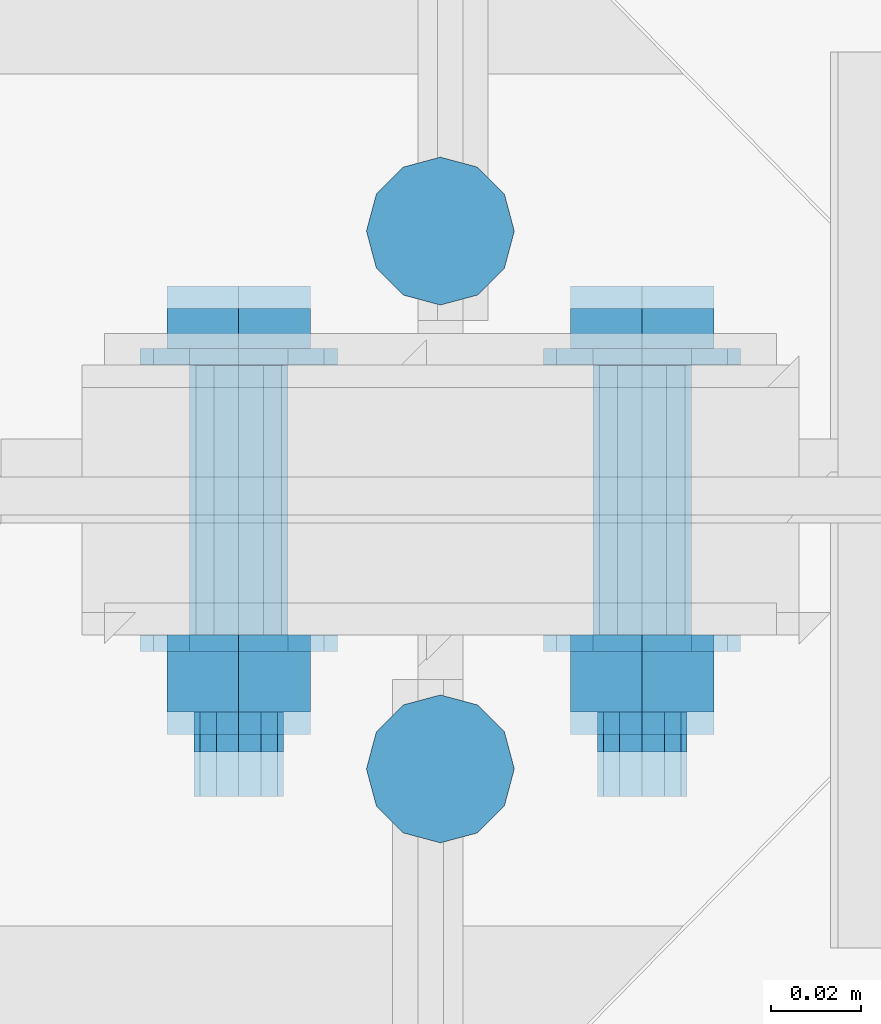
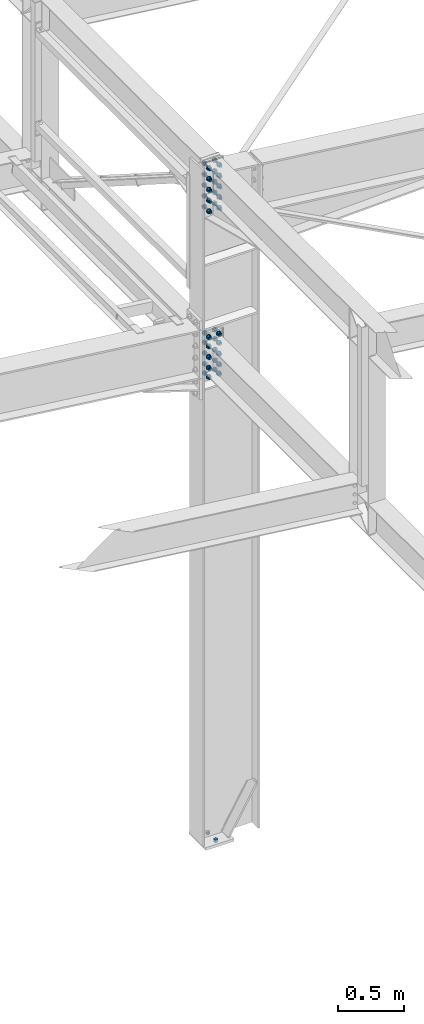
# One storey, part 135 of 3134: 3 mechanical fasteners, 2 elements without a shape of their own.
"""IFC2X3 building model written with IfcOpenShell, lengths in millimetres."""

from ifc_helpers import new_model, si_unit, frame, origin_with_axes, place, context, subcontext, project, spatial, faceted_brep, source, transform, mapped, material, type_object, element, aggregate, save


model = new_model("IFC2X3")

# Units and contexts
model_context = context("Model", 3, precision=1e-05, world=origin_with_axes())
body_context = subcontext(model_context, "Body", "Model", "MODEL_VIEW")
ifc_project = project(units=[si_unit("LENGTHUNIT", "METRE", prefix="MILLI"), si_unit("AREAUNIT", "SQUARE_METRE"), si_unit("VOLUMEUNIT", "CUBIC_METRE"), si_unit("MASSUNIT", "GRAM", prefix="KILO"), si_unit("TIMEUNIT", "SECOND"), si_unit("PLANEANGLEUNIT", "RADIAN"), si_unit("SOLIDANGLEUNIT", "STERADIAN"), si_unit("THERMODYNAMICTEMPERATUREUNIT", "DEGREE_CELSIUS"), si_unit("LUMINOUSINTENSITYUNIT", "LUMEN")], contexts=[model_context])

# Site, building, storey
site_placement = place(None, origin_with_axes())
site = spatial("IfcSite", under=ifc_project, at=site_placement, CompositionType="ELEMENT")
building_placement = place(site_placement, origin_with_axes())
building = spatial("IfcBuilding", under=site, at=building_placement, Name="Undefined", CompositionType="ELEMENT")
storey_placement = place(building_placement, origin_with_axes())
storey = spatial("IfcBuildingStorey", under=building, at=storey_placement, Name="Undefined", CompositionType="ELEMENT", Elevation=0.0)

# Assembly, mechanical fasteners
assembly_1_placement = place(storey_placement, origin_with_axes())
assembly_1 = element("IfcElementAssembly", 1, at=assembly_1_placement, inside=storey, Name="300", AssemblyPlace="NOTDEFINED", PredefinedType="RIGID_FRAME")
ifc_material_1 = material(Name="HR10.9")
mechanical_fastener_type = type_object("IfcMechanicalFastenerType", Name="Bolt assembly")
shared_shape_1 = source(origin_with_axes(), body_context, "Body", "Brep", [
    faceted_brep([(18.475208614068, -18.3999996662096, 0.0), (9.23760430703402, -18.3999996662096, 16.0), (-9.23760430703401, -18.3999996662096, 16.0), (-18.475208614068, -18.3999996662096, 2.2625605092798e-15), (-9.23760430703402, -18.3999996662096, -16.0), (9.237604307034, -18.3999996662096, -16.0), (9.237604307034, -4.50000004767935, -16.0), (-9.23760430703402, -4.50000004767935, -16.0), (-18.475208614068, -4.50000004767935, 2.2625605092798e-15), (-9.23760430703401, -4.50000004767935, 16.0), (9.23760430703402, -4.50000004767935, 16.0), (18.475208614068, -4.50000004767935, 0.0), (10.0, -4.50000004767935, 0.0), (8.66025403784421, -4.50000004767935, 5.0000000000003), (4.9999999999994, -4.50000004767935, 8.66025403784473), (-1.03633598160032e-12, -4.50000004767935, 10.0), (-5.00000000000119, -4.50000004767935, 8.6602540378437), (-8.66025403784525, -4.50000004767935, 4.99999999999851), (-10.0, -4.50000004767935, -2.07267196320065e-12), (-8.66025403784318, -4.50000004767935, -5.00000000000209), (-4.99999999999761, -4.50000004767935, -8.66025403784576), (3.09790571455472e-12, -4.50000004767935, -10.0), (5.00000000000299, -4.50000004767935, -8.66025403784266), (8.66025403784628, -4.50000004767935, -4.99999999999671), (8.66025403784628, 80.4999999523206, -4.99999999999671), (5.00000000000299, 80.4999999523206, -8.66025403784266), (3.09790571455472e-12, 80.4999999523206, -10.0), (-4.99999999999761, 80.4999999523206, -8.66025403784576), (-8.66025403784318, 80.4999999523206, -5.00000000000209), (-10.0, 80.4999999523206, -2.07267196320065e-12), (-8.66025403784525, 80.4999999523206, 4.99999999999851), (-5.00000000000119, 80.4999999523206, 8.6602540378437), (-1.03633598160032e-12, 80.4999999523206, 10.0), (4.9999999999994, 80.4999999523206, 8.66025403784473), (8.66025403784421, 80.4999999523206, 5.0000000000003), (10.0, 80.4999999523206, 0.0), (22.0, -4.50000004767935, 0.0), (19.0525588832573, -4.50000004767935, 11.0000000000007), (10.9999999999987, -4.50000004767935, 19.0525588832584), (-2.27993915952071e-12, -4.50000004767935, 22.0), (-11.0000000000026, -4.50000004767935, 19.0525588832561), (-19.0525588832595, -4.50000004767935, 10.9999999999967), (-22.0, -4.50000004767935, -4.55987831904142e-12), (-19.052558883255, -4.50000004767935, -11.0000000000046), (-10.9999999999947, -4.50000004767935, -19.0525588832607), (6.81539257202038e-12, -4.50000004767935, -22.0), (11.0000000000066, -4.50000004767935, -19.0525588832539), (19.0525588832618, -4.50000004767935, -10.9999999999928), (19.0525588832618, -0.799999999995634, -10.9999999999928), (11.0000000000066, -0.799999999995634, -19.0525588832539), (6.81539257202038e-12, -0.799999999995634, -22.0), (-10.9999999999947, -0.799999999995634, -19.0525588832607), (-19.052558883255, -0.799999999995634, -11.0000000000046), (-22.0, -0.799999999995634, -4.55987831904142e-12), (-19.0525588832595, -0.799999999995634, 10.9999999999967), (-11.0000000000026, -0.799999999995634, 19.0525588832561), (-2.27993915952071e-12, -0.799999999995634, 22.0), (10.9999999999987, -0.799999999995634, 19.0525588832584), (19.0525588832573, -0.799999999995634, 11.0000000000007), (22.0, -0.799999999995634, 0.0), (22.0, 49.4000000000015, 0.0), (19.0525588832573, 49.4000000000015, 11.0000000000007), (10.9999999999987, 49.4000000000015, 19.0525588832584), (-2.27993915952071e-12, 49.4000000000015, 22.0), (-11.0000000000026, 49.4000000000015, 19.0525588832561), (-19.0525588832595, 49.4000000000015, 10.9999999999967), (-22.0, 49.4000000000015, -4.55987831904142e-12), (-19.052558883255, 49.4000000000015, -11.0000000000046), (-10.9999999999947, 49.4000000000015, -19.0525588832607), (6.81539257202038e-12, 49.4000000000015, -22.0), (11.0000000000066, 49.4000000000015, -19.0525588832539), (19.0525588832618, 49.4000000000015, -10.9999999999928), (19.0525588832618, 53.1000000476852, -10.9999999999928), (11.0000000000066, 53.1000000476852, -19.0525588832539), (6.81539257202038e-12, 53.1000000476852, -22.0), (-10.9999999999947, 53.1000000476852, -19.0525588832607), (-19.052558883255, 53.1000000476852, -11.0000000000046), (-22.0, 53.1000000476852, -4.55987831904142e-12), (-19.0525588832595, 53.1000000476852, 10.9999999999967), (-11.0000000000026, 53.1000000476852, 19.0525588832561), (-2.27993915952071e-12, 53.1000000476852, 22.0), (10.9999999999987, 53.1000000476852, 19.0525588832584), (19.0525588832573, 53.1000000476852, 11.0000000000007), (22.0, 53.1000000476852, 0.0), (18.475208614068, 53.1000000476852, 0.0), (9.23760430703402, 53.1000000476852, 16.0), (-9.23760430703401, 53.1000000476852, 16.0), (-18.475208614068, 53.1000000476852, 2.2625605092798e-15), (-9.23760430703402, 53.1000000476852, -16.0), (9.237604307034, 53.1000000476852, -16.0), (9.237604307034, 71.6499992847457, -16.0), (-9.23760430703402, 71.6499992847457, -16.0), (-18.475208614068, 71.6499992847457, 2.2625605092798e-15), (-9.23760430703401, 71.6499992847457, 16.0), (9.23760430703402, 71.6499992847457, 16.0), (18.475208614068, 71.6499992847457, 0.0)], [[[0, 1, 2, 3, 4, 5]], [[6, 7, 8, 9, 10, 11]], [[0, 11, 10, 1]], [[1, 10, 9, 2]], [[2, 9, 8, 3]], [[3, 8, 7, 4]], [[4, 7, 6, 5]], [[5, 6, 11, 0]], [[12, 13, 14, 15, 16, 17, 18, 19, 20, 21, 22, 23]], [[24, 25, 26, 27, 28, 29, 30, 31, 32, 33, 34, 35]], [[12, 35, 34, 13]], [[13, 34, 33, 14]], [[14, 33, 32, 15]], [[15, 32, 31, 16]], [[16, 31, 30, 17]], [[17, 30, 29, 18]], [[18, 29, 28, 19]], [[19, 28, 27, 20]], [[20, 27, 26, 21]], [[21, 26, 25, 22]], [[22, 25, 24, 23]], [[23, 24, 35, 12]], [[36, 37, 38, 39, 40, 41, 42, 43, 44, 45, 46, 47]], [[48, 49, 50, 51, 52, 53, 54, 55, 56, 57, 58, 59]], [[36, 59, 58, 37]], [[37, 58, 57, 38]], [[38, 57, 56, 39]], [[39, 56, 55, 40]], [[40, 55, 54, 41]], [[41, 54, 53, 42]], [[42, 53, 52, 43]], [[43, 52, 51, 44]], [[44, 51, 50, 45]], [[45, 50, 49, 46]], [[46, 49, 48, 47]], [[47, 48, 59, 36]], [[60, 61, 62, 63, 64, 65, 66, 67, 68, 69, 70, 71]], [[72, 73, 74, 75, 76, 77, 78, 79, 80, 81, 82, 83]], [[60, 83, 82, 61]], [[61, 82, 81, 62]], [[62, 81, 80, 63]], [[63, 80, 79, 64]], [[64, 79, 78, 65]], [[65, 78, 77, 66]], [[66, 77, 76, 67]], [[67, 76, 75, 68]], [[68, 75, 74, 69]], [[69, 74, 73, 70]], [[70, 73, 72, 71]], [[71, 72, 83, 60]], [[84, 85, 86, 87, 88, 89]], [[90, 91, 92, 93, 94, 95]], [[84, 95, 94, 85]], [[85, 94, 93, 86]], [[86, 93, 92, 87]], [[87, 92, 91, 88]], [[88, 91, 90, 89]], [[89, 90, 95, 84]]]),
    faceted_brep([(11.0, 19.2000000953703, 0.0), (9.52627944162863, 19.2000000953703, 5.50000000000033), (5.49999999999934, 19.2000000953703, 9.5262794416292), (-1.13996957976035e-12, 19.2000000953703, 11.0), (-5.50000000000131, 19.2000000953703, 9.52627944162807), (-9.52627944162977, 19.2000000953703, 5.49999999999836), (-11.0, 19.2000000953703, -2.27993915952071e-12), (-9.5262794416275, 19.2000000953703, -5.5000000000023), (-5.49999999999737, 19.2000000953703, -9.52627944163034), (3.40769628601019e-12, 19.2000000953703, -11.0), (5.50000000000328, 19.2000000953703, -9.52627944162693), (9.52627944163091, 19.2000000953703, -5.49999999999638), (9.52627944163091, 29.3999999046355, -5.49999999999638), (5.50000000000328, 29.3999999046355, -9.52627944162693), (3.40769628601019e-12, 29.3999999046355, -11.0), (-5.49999999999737, 29.3999999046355, -9.52627944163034), (-9.5262794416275, 29.3999999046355, -5.5000000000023), (-11.0, 29.3999999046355, -2.27993915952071e-12), (-9.52627944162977, 29.3999999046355, 5.49999999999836), (-5.50000000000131, 29.3999999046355, 9.52627944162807), (-1.13996957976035e-12, 29.3999999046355, 11.0), (5.49999999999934, 29.3999999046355, 9.5262794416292), (9.52627944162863, 29.3999999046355, 5.50000000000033), (11.0, 29.3999999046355, 0.0), (11.0, -0.699999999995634, 0.0), (9.52627944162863, -0.699999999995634, 5.50000000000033), (5.49999999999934, -0.699999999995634, 9.5262794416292), (-1.13996957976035e-12, -0.699999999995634, 11.0), (-5.50000000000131, -0.699999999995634, 9.52627944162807), (-9.52627944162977, -0.699999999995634, 5.49999999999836), (-11.0, -0.699999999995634, -2.27993915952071e-12), (-9.5262794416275, -0.699999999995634, -5.5000000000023), (-5.49999999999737, -0.699999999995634, -9.52627944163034), (3.40769628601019e-12, -0.699999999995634, -11.0), (5.50000000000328, -0.699999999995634, -9.52627944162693), (9.52627944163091, -0.699999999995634, -5.49999999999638), (9.52627944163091, 19.3000000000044, -5.49999999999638), (5.50000000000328, 19.3000000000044, -9.52627944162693), (3.40769628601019e-12, 19.3000000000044, -11.0), (-5.49999999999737, 19.3000000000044, -9.52627944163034), (-9.5262794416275, 19.3000000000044, -5.5000000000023), (-11.0, 19.3000000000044, -2.27993915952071e-12), (-9.52627944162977, 19.3000000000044, 5.49999999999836), (-5.50000000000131, 19.3000000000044, 9.52627944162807), (-1.13996957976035e-12, 19.3000000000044, 11.0), (5.49999999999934, 19.3000000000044, 9.5262794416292), (9.52627944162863, 19.3000000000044, 5.50000000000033), (11.0, 19.3000000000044, 0.0), (11.0, 29.3000000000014, 0.0), (9.52627944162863, 29.3000000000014, 5.50000000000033), (5.49999999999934, 29.3000000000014, 9.5262794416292), (-1.13996957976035e-12, 29.3000000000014, 11.0), (-5.50000000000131, 29.3000000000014, 9.52627944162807), (-9.52627944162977, 29.3000000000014, 5.49999999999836), (-11.0, 29.3000000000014, -2.27993915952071e-12), (-9.5262794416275, 29.3000000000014, -5.5000000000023), (-5.49999999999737, 29.3000000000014, -9.52627944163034), (3.40769628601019e-12, 29.3000000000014, -11.0), (5.50000000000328, 29.3000000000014, -9.52627944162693), (9.52627944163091, 29.3000000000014, -5.49999999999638), (9.52627944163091, 49.4000000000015, -5.49999999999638), (5.50000000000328, 49.4000000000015, -9.52627944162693), (3.40769628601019e-12, 49.4000000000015, -11.0), (-5.49999999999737, 49.4000000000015, -9.52627944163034), (-9.5262794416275, 49.4000000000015, -5.5000000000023), (-11.0, 49.4000000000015, -2.27993915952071e-12), (-9.52627944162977, 49.4000000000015, 5.49999999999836), (-5.50000000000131, 49.4000000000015, 9.52627944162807), (-1.13996957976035e-12, 49.4000000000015, 11.0), (5.49999999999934, 49.4000000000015, 9.5262794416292), (9.52627944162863, 49.4000000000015, 5.50000000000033), (11.0, 49.4000000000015, 0.0)], [[[0, 1, 2, 3, 4, 5, 6, 7, 8, 9, 10, 11]], [[12, 13, 14, 15, 16, 17, 18, 19, 20, 21, 22, 23]], [[0, 23, 22, 1]], [[1, 22, 21, 2]], [[2, 21, 20, 3]], [[3, 20, 19, 4]], [[4, 19, 18, 5]], [[5, 18, 17, 6]], [[6, 17, 16, 7]], [[7, 16, 15, 8]], [[8, 15, 14, 9]], [[9, 14, 13, 10]], [[10, 13, 12, 11]], [[11, 12, 23, 0]], [[24, 25, 26, 27, 28, 29, 30, 31, 32, 33, 34, 35]], [[36, 37, 38, 39, 40, 41, 42, 43, 44, 45, 46, 47]], [[24, 47, 46, 25]], [[25, 46, 45, 26]], [[26, 45, 44, 27]], [[27, 44, 43, 28]], [[28, 43, 42, 29]], [[29, 42, 41, 30]], [[30, 41, 40, 31]], [[31, 40, 39, 32]], [[32, 39, 38, 33]], [[33, 38, 37, 34]], [[34, 37, 36, 35]], [[35, 36, 47, 24]], [[48, 49, 50, 51, 52, 53, 54, 55, 56, 57, 58, 59]], [[60, 61, 62, 63, 64, 65, 66, 67, 68, 69, 70, 71]], [[48, 71, 70, 49]], [[49, 70, 69, 50]], [[50, 69, 68, 51]], [[51, 68, 67, 52]], [[52, 67, 66, 53]], [[53, 66, 65, 54]], [[54, 65, 64, 55]], [[55, 64, 63, 56]], [[56, 63, 62, 57]], [[57, 62, 61, 58]], [[58, 61, 60, 59]], [[59, 60, 71, 48]]]),
])
mechanical_fastener_1_placement = place(assembly_1_placement, frame((32525.0, 19474.3, 4273.5), z_axis=(-1.0, 0.0, 0.0), x_axis=(0.0, 0.0, -1.0)))
mechanical_fastener_1 = element("IfcMechanicalFastener", 2, at=mechanical_fastener_1_placement, type_object=mechanical_fastener_type, material=ifc_material_1, Name="Bolt assembly", NominalDiameter=20.0, NominalLength=85.0, context=body_context, shape_type="MappedRepresentation", body=[
    mapped(shared_shape_1, transform((0.0, 0.0, -45.0))),
    mapped(shared_shape_1, transform((85.0, 0.0, -45.0))),
    mapped(shared_shape_1, transform((185.0, 0.0, -45.0))),
    mapped(shared_shape_1, transform((285.0, 0.0, -45.0))),
    mapped(shared_shape_1, transform((370.0, 0.0, -45.0))),
    mapped(shared_shape_1, transform((0.0, 0.0, 45.0))),
    mapped(shared_shape_1, transform((85.0, 0.0, 45.0))),
    mapped(shared_shape_1, transform((185.0, 0.0, 45.0))),
    mapped(shared_shape_1, transform((285.0, 0.0, 45.0))),
    mapped(shared_shape_1, transform((370.0, 0.0, 45.0))),
])
shared_shape_2 = source(origin_with_axes(), body_context, "Body", "Brep", [
    faceted_brep([(18.475208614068, -47.6999994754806, 0.0), (9.23760430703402, -47.6999994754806, 16.0), (-9.23760430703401, -47.6999994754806, 16.0), (-18.475208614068, -47.6999994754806, 2.2625605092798e-15), (-9.23760430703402, -47.6999994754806, -16.0), (9.237604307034, -47.6999994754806, -16.0), (9.237604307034, -33.7999998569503, -16.0), (-9.23760430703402, -33.7999998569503, -16.0), (-18.475208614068, -33.7999998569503, 2.2625605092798e-15), (-9.23760430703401, -33.7999998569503, 16.0), (9.23760430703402, -33.7999998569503, 16.0), (18.475208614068, -33.7999998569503, 0.0), (10.0, -33.7999998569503, 0.0), (8.66025403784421, -33.7999998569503, 5.0000000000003), (4.9999999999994, -33.7999998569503, 8.66025403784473), (-1.03633598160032e-12, -33.7999998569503, 10.0), (-5.00000000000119, -33.7999998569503, 8.6602540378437), (-8.66025403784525, -33.7999998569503, 4.99999999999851), (-10.0, -33.7999998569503, -2.07267196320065e-12), (-8.66025403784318, -33.7999998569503, -5.00000000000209), (-4.99999999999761, -33.7999998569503, -8.66025403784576), (3.09790571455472e-12, -33.7999998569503, -10.0), (5.00000000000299, -33.7999998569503, -8.66025403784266), (8.66025403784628, -33.7999998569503, -4.99999999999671), (8.66025403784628, 66.2000001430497, -4.99999999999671), (5.00000000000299, 66.2000001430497, -8.66025403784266), (3.09790571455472e-12, 66.2000001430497, -10.0), (-4.99999999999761, 66.2000001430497, -8.66025403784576), (-8.66025403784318, 66.2000001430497, -5.00000000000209), (-10.0, 66.2000001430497, -2.07267196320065e-12), (-8.66025403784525, 66.2000001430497, 4.99999999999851), (-5.00000000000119, 66.2000001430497, 8.6602540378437), (-1.03633598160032e-12, 66.2000001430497, 10.0), (4.9999999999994, 66.2000001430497, 8.66025403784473), (8.66025403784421, 66.2000001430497, 5.0000000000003), (10.0, 66.2000001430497, 0.0), (22.0, -33.7999998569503, 0.0), (19.0525588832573, -33.7999998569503, 11.0000000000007), (10.9999999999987, -33.7999998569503, 19.0525588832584), (-2.27993915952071e-12, -33.7999998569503, 22.0), (-11.0000000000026, -33.7999998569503, 19.0525588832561), (-19.0525588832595, -33.7999998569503, 10.9999999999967), (-22.0, -33.7999998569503, -4.55987831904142e-12), (-19.052558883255, -33.7999998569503, -11.0000000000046), (-10.9999999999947, -33.7999998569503, -19.0525588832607), (6.81539257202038e-12, -33.7999998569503, -22.0), (11.0000000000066, -33.7999998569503, -19.0525588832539), (19.0525588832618, -33.7999998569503, -10.9999999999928), (19.0525588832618, -30.0999998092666, -10.9999999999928), (11.0000000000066, -30.0999998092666, -19.0525588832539), (6.81539257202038e-12, -30.0999998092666, -22.0), (-10.9999999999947, -30.0999998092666, -19.0525588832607), (-19.052558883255, -30.0999998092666, -11.0000000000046), (-22.0, -30.0999998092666, -4.55987831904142e-12), (-19.0525588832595, -30.0999998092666, 10.9999999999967), (-11.0000000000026, -30.0999998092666, 19.0525588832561), (-2.27993915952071e-12, -30.0999998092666, 22.0), (10.9999999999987, -30.0999998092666, 19.0525588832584), (19.0525588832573, -30.0999998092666, 11.0000000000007), (22.0, -30.0999998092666, 0.0), (22.0, 30.0999999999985, 0.0), (19.0525588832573, 30.0999999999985, 11.0000000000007), (10.9999999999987, 30.0999999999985, 19.0525588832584), (-2.27993915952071e-12, 30.0999999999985, 22.0), (-11.0000000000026, 30.0999999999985, 19.0525588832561), (-19.0525588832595, 30.0999999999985, 10.9999999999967), (-22.0, 30.0999999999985, -4.55987831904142e-12), (-19.052558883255, 30.0999999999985, -11.0000000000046), (-10.9999999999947, 30.0999999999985, -19.0525588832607), (6.81539257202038e-12, 30.0999999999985, -22.0), (11.0000000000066, 30.0999999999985, -19.0525588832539), (19.0525588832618, 30.0999999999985, -10.9999999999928), (19.0525588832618, 33.8000000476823, -10.9999999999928), (11.0000000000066, 33.8000000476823, -19.0525588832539), (6.81539257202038e-12, 33.8000000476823, -22.0), (-10.9999999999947, 33.8000000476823, -19.0525588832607), (-19.052558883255, 33.8000000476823, -11.0000000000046), (-22.0, 33.8000000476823, -4.55987831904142e-12), (-19.0525588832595, 33.8000000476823, 10.9999999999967), (-11.0000000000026, 33.8000000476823, 19.0525588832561), (-2.27993915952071e-12, 33.8000000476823, 22.0), (10.9999999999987, 33.8000000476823, 19.0525588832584), (19.0525588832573, 33.8000000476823, 11.0000000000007), (22.0, 33.8000000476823, 0.0), (18.475208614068, 33.8000000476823, 0.0), (9.23760430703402, 33.8000000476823, 16.0), (-9.23760430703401, 33.8000000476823, 16.0), (-18.475208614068, 33.8000000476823, 2.2625605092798e-15), (-9.23760430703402, 33.8000000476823, -16.0), (9.237604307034, 33.8000000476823, -16.0), (9.237604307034, 52.3499992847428, -16.0), (-9.23760430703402, 52.3499992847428, -16.0), (-18.475208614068, 52.3499992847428, 2.2625605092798e-15), (-9.23760430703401, 52.3499992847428, 16.0), (9.23760430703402, 52.3499992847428, 16.0), (18.475208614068, 52.3499992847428, 0.0)], [[[0, 1, 2, 3, 4, 5]], [[6, 7, 8, 9, 10, 11]], [[0, 11, 10, 1]], [[1, 10, 9, 2]], [[2, 9, 8, 3]], [[3, 8, 7, 4]], [[4, 7, 6, 5]], [[5, 6, 11, 0]], [[12, 13, 14, 15, 16, 17, 18, 19, 20, 21, 22, 23]], [[24, 25, 26, 27, 28, 29, 30, 31, 32, 33, 34, 35]], [[12, 35, 34, 13]], [[13, 34, 33, 14]], [[14, 33, 32, 15]], [[15, 32, 31, 16]], [[16, 31, 30, 17]], [[17, 30, 29, 18]], [[18, 29, 28, 19]], [[19, 28, 27, 20]], [[20, 27, 26, 21]], [[21, 26, 25, 22]], [[22, 25, 24, 23]], [[23, 24, 35, 12]], [[36, 37, 38, 39, 40, 41, 42, 43, 44, 45, 46, 47]], [[48, 49, 50, 51, 52, 53, 54, 55, 56, 57, 58, 59]], [[36, 59, 58, 37]], [[37, 58, 57, 38]], [[38, 57, 56, 39]], [[39, 56, 55, 40]], [[40, 55, 54, 41]], [[41, 54, 53, 42]], [[42, 53, 52, 43]], [[43, 52, 51, 44]], [[44, 51, 50, 45]], [[45, 50, 49, 46]], [[46, 49, 48, 47]], [[47, 48, 59, 36]], [[60, 61, 62, 63, 64, 65, 66, 67, 68, 69, 70, 71]], [[72, 73, 74, 75, 76, 77, 78, 79, 80, 81, 82, 83]], [[60, 83, 82, 61]], [[61, 82, 81, 62]], [[62, 81, 80, 63]], [[63, 80, 79, 64]], [[64, 79, 78, 65]], [[65, 78, 77, 66]], [[66, 77, 76, 67]], [[67, 76, 75, 68]], [[68, 75, 74, 69]], [[69, 74, 73, 70]], [[70, 73, 72, 71]], [[71, 72, 83, 60]], [[84, 85, 86, 87, 88, 89]], [[90, 91, 92, 93, 94, 95]], [[84, 95, 94, 85]], [[85, 94, 93, 86]], [[86, 93, 92, 87]], [[87, 92, 91, 88]], [[88, 91, 90, 89]], [[89, 90, 95, 84]]]),
    faceted_brep([(11.0, -5.09999980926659, 0.0), (9.52627944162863, -5.09999980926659, 5.50000000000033), (5.49999999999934, -5.09999980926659, 9.5262794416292), (-1.13996957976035e-12, -5.09999980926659, 11.0), (-5.50000000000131, -5.09999980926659, 9.52627944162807), (-9.52627944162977, -5.09999980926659, 5.49999999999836), (-11.0, -5.09999980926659, -2.27993915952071e-12), (-9.5262794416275, -5.09999980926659, -5.5000000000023), (-5.49999999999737, -5.09999980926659, -9.52627944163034), (3.40769628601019e-12, -5.09999980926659, -11.0), (5.50000000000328, -5.09999980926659, -9.52627944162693), (9.52627944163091, -5.09999980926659, -5.49999999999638), (9.52627944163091, 5.09999999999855, -5.49999999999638), (5.50000000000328, 5.09999999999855, -9.52627944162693), (3.40769628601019e-12, 5.09999999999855, -11.0), (-5.49999999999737, 5.09999999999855, -9.52627944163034), (-9.5262794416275, 5.09999999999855, -5.5000000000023), (-11.0, 5.09999999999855, -2.27993915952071e-12), (-9.52627944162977, 5.09999999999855, 5.49999999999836), (-5.50000000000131, 5.09999999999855, 9.52627944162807), (-1.13996957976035e-12, 5.09999999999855, 11.0), (5.49999999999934, 5.09999999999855, 9.5262794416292), (9.52627944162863, 5.09999999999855, 5.50000000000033), (11.0, 5.09999999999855, 0.0), (11.0, -29.9999998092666, 0.0), (9.52627944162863, -29.9999998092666, 5.50000000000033), (5.49999999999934, -29.9999998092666, 9.5262794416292), (-1.13996957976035e-12, -29.9999998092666, 11.0), (-5.50000000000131, -29.9999998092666, 9.52627944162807), (-9.52627944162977, -29.9999998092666, 5.49999999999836), (-11.0, -29.9999998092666, -2.27993915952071e-12), (-9.5262794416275, -29.9999998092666, -5.5000000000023), (-5.49999999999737, -29.9999998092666, -9.52627944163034), (3.40769628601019e-12, -29.9999998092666, -11.0), (5.50000000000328, -29.9999998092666, -9.52627944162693), (9.52627944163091, -29.9999998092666, -5.49999999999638), (9.52627944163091, -4.99999980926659, -5.49999999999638), (5.50000000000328, -4.99999980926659, -9.52627944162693), (3.40769628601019e-12, -4.99999980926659, -11.0), (-5.49999999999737, -4.99999980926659, -9.52627944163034), (-9.5262794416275, -4.99999980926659, -5.5000000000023), (-11.0, -4.99999980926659, -2.27993915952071e-12), (-9.52627944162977, -4.99999980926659, 5.49999999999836), (-5.50000000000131, -4.99999980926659, 9.52627944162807), (-1.13996957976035e-12, -4.99999980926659, 11.0), (5.49999999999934, -4.99999980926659, 9.5262794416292), (9.52627944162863, -4.99999980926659, 5.50000000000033), (11.0, -4.99999980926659, 0.0), (11.0, 4.99999999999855, 0.0), (9.52627944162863, 4.99999999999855, 5.50000000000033), (5.49999999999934, 4.99999999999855, 9.5262794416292), (-1.13996957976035e-12, 4.99999999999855, 11.0), (-5.50000000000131, 4.99999999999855, 9.52627944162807), (-9.52627944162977, 4.99999999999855, 5.49999999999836), (-11.0, 4.99999999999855, -2.27993915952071e-12), (-9.5262794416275, 4.99999999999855, -5.5000000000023), (-5.49999999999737, 4.99999999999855, -9.52627944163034), (3.40769628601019e-12, 4.99999999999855, -11.0), (5.50000000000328, 4.99999999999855, -9.52627944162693), (9.52627944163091, 4.99999999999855, -5.49999999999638), (9.52627944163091, 30.0999999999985, -5.49999999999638), (5.50000000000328, 30.0999999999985, -9.52627944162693), (3.40769628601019e-12, 30.0999999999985, -11.0), (-5.49999999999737, 30.0999999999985, -9.52627944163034), (-9.5262794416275, 30.0999999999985, -5.5000000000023), (-11.0, 30.0999999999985, -2.27993915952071e-12), (-9.52627944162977, 30.0999999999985, 5.49999999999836), (-5.50000000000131, 30.0999999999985, 9.52627944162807), (-1.13996957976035e-12, 30.0999999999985, 11.0), (5.49999999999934, 30.0999999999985, 9.5262794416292), (9.52627944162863, 30.0999999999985, 5.50000000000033), (11.0, 30.0999999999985, 0.0)], [[[0, 1, 2, 3, 4, 5, 6, 7, 8, 9, 10, 11]], [[12, 13, 14, 15, 16, 17, 18, 19, 20, 21, 22, 23]], [[0, 23, 22, 1]], [[1, 22, 21, 2]], [[2, 21, 20, 3]], [[3, 20, 19, 4]], [[4, 19, 18, 5]], [[5, 18, 17, 6]], [[6, 17, 16, 7]], [[7, 16, 15, 8]], [[8, 15, 14, 9]], [[9, 14, 13, 10]], [[10, 13, 12, 11]], [[11, 12, 23, 0]], [[24, 25, 26, 27, 28, 29, 30, 31, 32, 33, 34, 35]], [[36, 37, 38, 39, 40, 41, 42, 43, 44, 45, 46, 47]], [[24, 47, 46, 25]], [[25, 46, 45, 26]], [[26, 45, 44, 27]], [[27, 44, 43, 28]], [[28, 43, 42, 29]], [[29, 42, 41, 30]], [[30, 41, 40, 31]], [[31, 40, 39, 32]], [[32, 39, 38, 33]], [[33, 38, 37, 34]], [[34, 37, 36, 35]], [[35, 36, 47, 24]], [[48, 49, 50, 51, 52, 53, 54, 55, 56, 57, 58, 59]], [[60, 61, 62, 63, 64, 65, 66, 67, 68, 69, 70, 71]], [[48, 71, 70, 49]], [[49, 70, 69, 50]], [[50, 69, 68, 51]], [[51, 68, 67, 52]], [[52, 67, 66, 53]], [[53, 66, 65, 54]], [[54, 65, 64, 55]], [[55, 64, 63, 56]], [[56, 63, 62, 57]], [[57, 62, 61, 58]], [[58, 61, 60, 59]], [[59, 60, 71, 48]]]),
])
mechanical_fastener_2_placement = place(assembly_1_placement, frame((32525.0, 19450.0000000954, 5841.5), z_axis=(-1.0, 0.0, 0.0), x_axis=(0.0, 0.0, -1.0)))
mechanical_fastener_2 = element("IfcMechanicalFastener", 3, at=mechanical_fastener_2_placement, type_object=mechanical_fastener_type, material=ifc_material_1, Name="Bolt assembly", NominalDiameter=20.0, NominalLength=100.0, context=body_context, shape_type="MappedRepresentation", body=[
    mapped(shared_shape_2, transform((0.0, 0.0, -45.0))),
    mapped(shared_shape_2, transform((100.0, 0.0, -45.0))),
    mapped(shared_shape_2, transform((200.0, 0.0, -45.0))),
    mapped(shared_shape_2, transform((300.0, 0.0, -45.0))),
    mapped(shared_shape_2, transform((400.0, 0.0, -45.0))),
    mapped(shared_shape_2, transform((0.0, 0.0, 45.0))),
    mapped(shared_shape_2, transform((100.0, 0.0, 45.0))),
    mapped(shared_shape_2, transform((200.0, 0.0, 45.0))),
    mapped(shared_shape_2, transform((300.0, 0.0, 45.0))),
    mapped(shared_shape_2, transform((400.0, 0.0, 45.0))),
])
aggregate(assembly_1, [mechanical_fastener_1, mechanical_fastener_2])

# Assembly, mechanical fastener
assembly_2_placement = place(storey_placement, origin_with_axes())
assembly_2 = element("IfcElementAssembly", 4, at=assembly_2_placement, inside=storey, Name="IPE500", AssemblyPlace="NOTDEFINED", PredefinedType="RIGID_FRAME")
ifc_material_2 = material(Name="8.8")
shared_shape_3 = source(origin_with_axes(), body_context, "Body", "Brep", [
    faceted_brep([(16.5, -25.0, 0.0), (14.289419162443, -25.0, 8.25000000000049), (8.24999999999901, -25.0, 14.2894191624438), (-1.70995436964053e-12, -25.0, 16.5), (-8.25000000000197, -25.0, 14.2894191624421), (-14.2894191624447, -25.0, 8.24999999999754), (-16.5, -25.0, -3.41990873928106e-12), (-14.2894191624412, -25.0, -8.25000000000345), (-8.24999999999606, -25.0, -14.2894191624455), (5.11154442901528e-12, -25.0, -16.5), (8.25000000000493, -25.0, -14.2894191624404), (14.2894191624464, -25.0, -8.24999999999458), (14.2894191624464, 0.1, -8.24999999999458), (8.25000000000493, 0.1, -14.2894191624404), (5.11154442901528e-12, 0.1, -16.5), (-8.24999999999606, 0.1, -14.2894191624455), (-14.2894191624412, 0.1, -8.25000000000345), (-16.5, 0.1, -3.41990873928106e-12), (-14.2894191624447, 0.1, 8.24999999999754), (-8.25000000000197, 0.1, 14.2894191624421), (-1.70995436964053e-12, 0.1, 16.5), (8.24999999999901, 0.1, 14.2894191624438), (14.289419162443, 0.1, 8.25000000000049), (16.5, 0.1, 0.0)], [[[0, 1, 2, 3, 4, 5, 6, 7, 8, 9, 10, 11]], [[12, 13, 14, 15, 16, 17, 18, 19, 20, 21, 22, 23]], [[0, 23, 22, 1]], [[1, 22, 21, 2]], [[2, 21, 20, 3]], [[3, 20, 19, 4]], [[4, 19, 18, 5]], [[5, 18, 17, 6]], [[6, 17, 16, 7]], [[7, 16, 15, 8]], [[8, 15, 14, 9]], [[9, 14, 13, 10]], [[10, 13, 12, 11]], [[11, 12, 23, 0]]]),
])
mechanical_fastener_3_placement = place(assembly_2_placement, frame((33005.0, 19450.0000000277, -375.0), z_axis=(0.0, 1.0, 0.0), x_axis=(-1.0, 0.0, 0.0)))
mechanical_fastener_3 = element("IfcMechanicalFastener", 5, at=mechanical_fastener_3_placement, type_object=mechanical_fastener_type, material=ifc_material_2, Name="Bolt assembly", NominalDiameter=30.0, NominalLength=25.0, context=body_context, shape_type="MappedRepresentation", body=[
    mapped(shared_shape_3, transform((480.0, 0.0, -60.0))),
    mapped(shared_shape_3, transform((480.0, 0.0, 60.0))),
])
aggregate(assembly_2, [mechanical_fastener_3])

save(model, "model.ifc")
